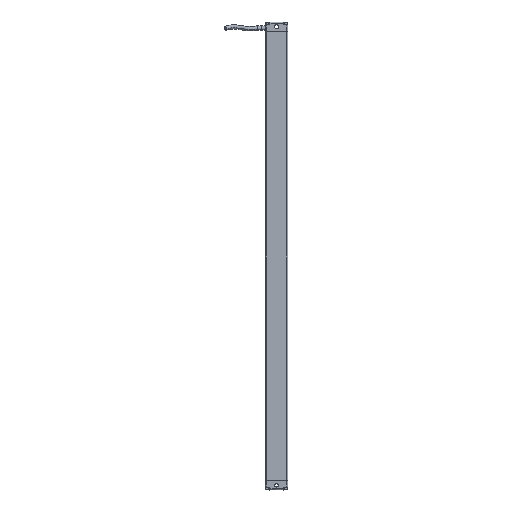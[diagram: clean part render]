
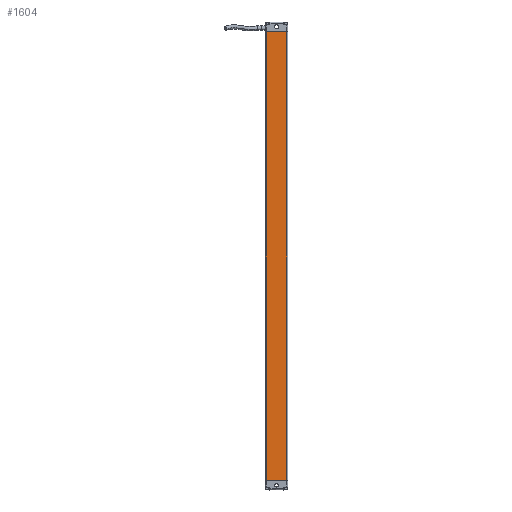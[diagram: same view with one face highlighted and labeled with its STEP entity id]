
A CAD part, front view. The second image highlights one B-rep face of the part: STEP entity #1604.
In plain terms, the highlighted planar face has unit normal (-0.001, -1, 0).
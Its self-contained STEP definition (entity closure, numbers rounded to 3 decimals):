
#1604=ADVANCED_FACE('',(#2720),#2349,.T.);
#2349=PLANE('',#14604);
#2720=FACE_OUTER_BOUND('',#3441,.T.);
#3441=EDGE_LOOP('',(#4477,#4478,#4479,#4480));
#4477=ORIENTED_EDGE('',*,*,#10104,.T.);
#4478=ORIENTED_EDGE('',*,*,#10057,.F.);
#4479=ORIENTED_EDGE('',*,*,#10102,.T.);
#4480=ORIENTED_EDGE('',*,*,#10105,.T.);
#8601=VERTEX_POINT('',#19878);
#8602=VERTEX_POINT('',#19880);
#8639=VERTEX_POINT('',#19969);
#8640=VERTEX_POINT('',#19973);
#10057=EDGE_CURVE('',#8601,#8602,#12174,.T.);
#10102=EDGE_CURVE('',#8601,#8639,#12205,.T.);
#10104=EDGE_CURVE('',#8640,#8602,#12206,.T.);
#10105=EDGE_CURVE('',#8639,#8640,#12207,.T.);
#12174=LINE('',#19879,#13389);
#12205=LINE('',#19968,#13420);
#12206=LINE('',#19972,#13421);
#12207=LINE('',#19974,#13422);
#13389=VECTOR('',#16033,1.);
#13420=VECTOR('',#16106,1.);
#13421=VECTOR('',#16111,1.);
#13422=VECTOR('',#16112,1.);
#14604=AXIS2_PLACEMENT_3D('',#19975,#16113,#16114);
#16033=DIRECTION('',(1.,-0.001,0.));
#16106=DIRECTION('',(0.,0.,-1.));
#16111=DIRECTION('',(0.,0.,1.));
#16112=DIRECTION('',(1.,-0.001,0.));
#16113=DIRECTION('',(-0.001,-1.,0.));
#16114=DIRECTION('',(1.,-0.001,0.));
#19878=CARTESIAN_POINT('',(53.048,-142.376,760.376));
#19879=CARTESIAN_POINT('',(79.028,-142.395,760.376));
#19880=CARTESIAN_POINT('',(79.028,-142.395,760.376));
#19968=CARTESIAN_POINT('',(53.048,-142.376,543.376));
#19969=CARTESIAN_POINT('',(53.048,-142.376,198.376));
#19972=CARTESIAN_POINT('',(79.028,-142.395,198.376));
#19973=CARTESIAN_POINT('',(79.028,-142.395,198.376));
#19974=CARTESIAN_POINT('',(53.048,-142.376,198.376));
#19975=CARTESIAN_POINT('',(79.028,-142.395,543.376));
